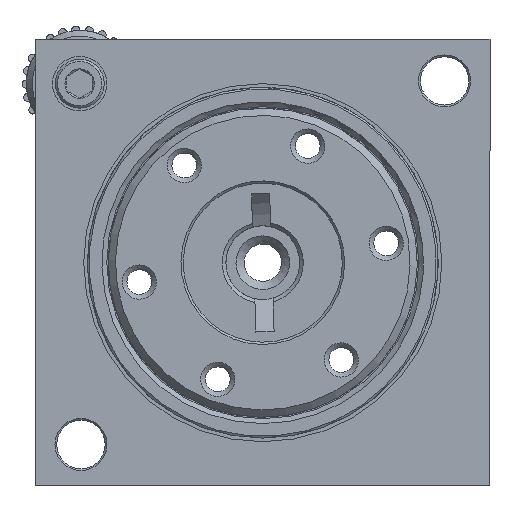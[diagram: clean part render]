
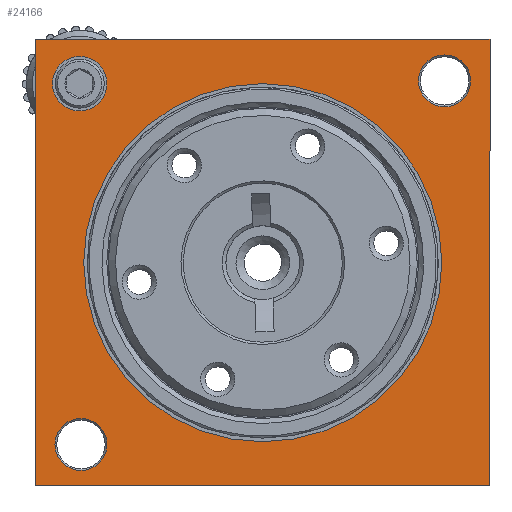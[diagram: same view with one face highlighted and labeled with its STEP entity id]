
A CAD part, front view. The second image highlights one B-rep face of the part: STEP entity #24166.
In plain terms, the highlighted planar face has unit normal (0, -1, 0).
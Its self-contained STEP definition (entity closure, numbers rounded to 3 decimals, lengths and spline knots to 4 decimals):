
#226 = VERTEX_POINT ( 'NONE', #90836 ) ;
#469 = AXIS2_PLACEMENT_3D ( 'NONE', #18943, #90786, #43097 ) ;
#2963 = DIRECTION ( 'NONE',  ( 0., 0., 1. ) ) ;
#5791 = LINE ( 'NONE', #71242, #31866 ) ;
#8239 = ORIENTED_EDGE ( 'NONE', *, *, #53205, .F. ) ;
#8596 = DIRECTION ( 'NONE',  ( -1., 0., 0. ) ) ;
#12464 = PLANE ( 'NONE',  #30806 ) ;
#12931 = CIRCLE ( 'NONE', #100318, 0.15 ) ;
#13066 = EDGE_LOOP ( 'NONE', ( #15860, #8239, #36000, #101113 ) ) ;
#13096 = EDGE_LOOP ( 'NONE', ( #55748 ) ) ;
#13556 = ORIENTED_EDGE ( 'NONE', *, *, #53005, .F. ) ;
#14875 = DIRECTION ( 'NONE',  ( 1., 0., 0. ) ) ;
#15844 = EDGE_CURVE ( 'NONE', #96847, #22619, #102165, .T. ) ;
#15860 = ORIENTED_EDGE ( 'NONE', *, *, #77361, .F. ) ;
#16084 = DIRECTION ( 'NONE',  ( 0., -1., 0. ) ) ;
#18943 = CARTESIAN_POINT ( 'NONE',  ( -2.4829, -0.0807, -0.352 ) ) ;
#20532 = FACE_BOUND ( 'NONE', #84084, .T. ) ;
#22619 = VERTEX_POINT ( 'NONE', #86178 ) ;
#24166 = ADVANCED_FACE ( 'NONE', ( #20532, #85932, #43643, #53254, #59698 ), #12464, .F. ) ;
#25548 = AXIS2_PLACEMENT_3D ( 'NONE', #100767, #83066, #49829 ) ;
#26255 = CIRCLE ( 'NONE', #469, 0.143 ) ;
#27662 = CARTESIAN_POINT ( 'NONE',  ( -2.7329, -0.0807, -0.58 ) ) ;
#29697 = LINE ( 'NONE', #62390, #51909 ) ;
#29743 = EDGE_CURVE ( 'NONE', #44331, #44331, #99539, .T. ) ;
#30806 = AXIS2_PLACEMENT_3D ( 'NONE', #102570, #76315, #77896 ) ;
#31272 = EDGE_CURVE ( 'NONE', #69538, #69538, #26255, .T. ) ;
#31671 = CARTESIAN_POINT ( 'NONE',  ( -2.4899, -0.0807, 1.633 ) ) ;
#31866 = VECTOR ( 'NONE', #14875, 39.3701 ) ;
#36000 = ORIENTED_EDGE ( 'NONE', *, *, #15844, .F. ) ;
#37315 = ORIENTED_EDGE ( 'NONE', *, *, #29743, .T. ) ;
#43097 = DIRECTION ( 'NONE',  ( 0., 0., 1. ) ) ;
#43643 = FACE_BOUND ( 'NONE', #98040, .T. ) ;
#43997 = DIRECTION ( 'NONE',  ( 0., 0., 1. ) ) ;
#44331 = VERTEX_POINT ( 'NONE', #101705 ) ;
#45061 = CARTESIAN_POINT ( 'NONE',  ( -0.4829, -0.0807, 1.648 ) ) ;
#45926 = CARTESIAN_POINT ( 'NONE',  ( -2.4829, -0.0807, -0.209 ) ) ;
#48441 = CARTESIAN_POINT ( 'NONE',  ( -0.2329, -0.0807, -0.58 ) ) ;
#49829 = DIRECTION ( 'NONE',  ( 0., 0., 1. ) ) ;
#51909 = VECTOR ( 'NONE', #95093, 39.3701 ) ;
#52047 = DIRECTION ( 'NONE',  ( 0., 1., 0. ) ) ;
#53005 = EDGE_CURVE ( 'NONE', #97338, #97338, #12931, .T. ) ;
#53205 = EDGE_CURVE ( 'NONE', #22619, #97930, #5791, .T. ) ;
#53254 = FACE_OUTER_BOUND ( 'NONE', #13066, .T. ) ;
#55748 = ORIENTED_EDGE ( 'NONE', *, *, #96022, .T. ) ;
#59698 = FACE_BOUND ( 'NONE', #13096, .T. ) ;
#62390 = CARTESIAN_POINT ( 'NONE',  ( -0.2329, -0.0807, -0.58 ) ) ;
#64431 = LINE ( 'NONE', #74561, #89283 ) ;
#67610 = EDGE_CURVE ( 'NONE', #90919, #96847, #64431, .T. ) ;
#68772 = AXIS2_PLACEMENT_3D ( 'NONE', #45061, #52047, #43997 ) ;
#69468 = VECTOR ( 'NONE', #2963, 39.3701 ) ;
#69538 = VERTEX_POINT ( 'NONE', #45926 ) ;
#71242 = CARTESIAN_POINT ( 'NONE',  ( -2.7329, -0.0807, 1.876 ) ) ;
#74561 = CARTESIAN_POINT ( 'NONE',  ( -2.7329, -0.0807, -0.58 ) ) ;
#75078 = EDGE_LOOP ( 'NONE', ( #83354 ) ) ;
#76315 = DIRECTION ( 'NONE',  ( 0., 1., 0. ) ) ;
#76619 = CARTESIAN_POINT ( 'NONE',  ( -2.7329, -0.0807, -0.58 ) ) ;
#76882 = CIRCLE ( 'NONE', #25548, 0.985 ) ;
#77361 = EDGE_CURVE ( 'NONE', #97930, #90919, #29697, .T. ) ;
#77896 = DIRECTION ( 'NONE',  ( 0., 0., 1. ) ) ;
#83066 = DIRECTION ( 'NONE',  ( 0., 1., 0. ) ) ;
#83354 = ORIENTED_EDGE ( 'NONE', *, *, #31272, .T. ) ;
#84084 = EDGE_LOOP ( 'NONE', ( #13556 ) ) ;
#85932 = FACE_BOUND ( 'NONE', #75078, .T. ) ;
#86178 = CARTESIAN_POINT ( 'NONE',  ( -2.7329, -0.0807, 1.876 ) ) ;
#89283 = VECTOR ( 'NONE', #8596, 39.3701 ) ;
#89545 = DIRECTION ( 'NONE',  ( 0., 0., -1. ) ) ;
#90786 = DIRECTION ( 'NONE',  ( 0., 1., 0. ) ) ;
#90836 = CARTESIAN_POINT ( 'NONE',  ( -1.4829, -0.0807, 1.633 ) ) ;
#90919 = VERTEX_POINT ( 'NONE', #48441 ) ;
#91809 = CARTESIAN_POINT ( 'NONE',  ( -0.2329, -0.0807, 1.876 ) ) ;
#95093 = DIRECTION ( 'NONE',  ( 0., 0., -1. ) ) ;
#96022 = EDGE_CURVE ( 'NONE', #226, #226, #76882, .T. ) ;
#96847 = VERTEX_POINT ( 'NONE', #76619 ) ;
#97338 = VERTEX_POINT ( 'NONE', #103805 ) ;
#97930 = VERTEX_POINT ( 'NONE', #91809 ) ;
#98040 = EDGE_LOOP ( 'NONE', ( #37315 ) ) ;
#99539 = CIRCLE ( 'NONE', #68772, 0.143 ) ;
#100318 = AXIS2_PLACEMENT_3D ( 'NONE', #31671, #16084, #89545 ) ;
#100767 = CARTESIAN_POINT ( 'NONE',  ( -1.4829, -0.0807, 0.648 ) ) ;
#101113 = ORIENTED_EDGE ( 'NONE', *, *, #67610, .F. ) ;
#101705 = CARTESIAN_POINT ( 'NONE',  ( -0.4829, -0.0807, 1.791 ) ) ;
#102165 = LINE ( 'NONE', #27662, #69468 ) ;
#102570 = CARTESIAN_POINT ( 'NONE',  ( -1.4829, -0.0807, 0.648 ) ) ;
#103805 = CARTESIAN_POINT ( 'NONE',  ( -2.4899, -0.0807, 1.483 ) ) ;
